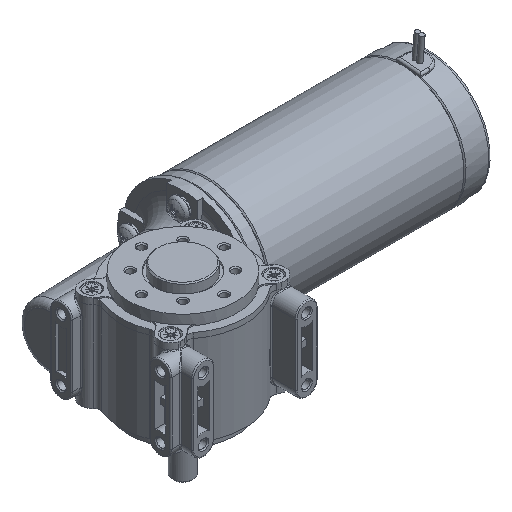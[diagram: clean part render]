
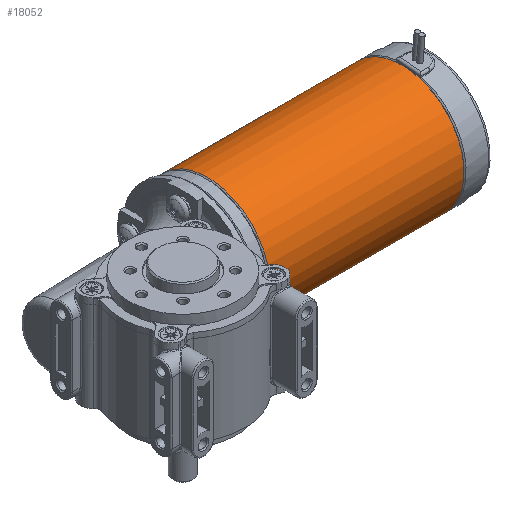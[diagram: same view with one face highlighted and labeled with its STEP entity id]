
A CAD part, isometric view. The second image highlights one B-rep face of the part: STEP entity #18052.
In plain terms, the highlighted cylindrical face has radius 30 mm (diameter 60 mm), a full revolution.
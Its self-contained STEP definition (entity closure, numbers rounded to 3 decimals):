
#1165=FACE_BOUND('',#4676,.T.);
#1481=CYLINDRICAL_SURFACE('',#19984,30.);
#2310=CIRCLE('',#19983,30.);
#2311=CIRCLE('',#19985,30.);
#3334=FACE_OUTER_BOUND('',#4675,.T.);
#4675=EDGE_LOOP('',(#14766));
#4676=EDGE_LOOP('',(#14767));
#8102=VERTEX_POINT('',#32968);
#8103=VERTEX_POINT('',#32971);
#10388=EDGE_CURVE('',#8102,#8102,#2310,.T.);
#10389=EDGE_CURVE('',#8103,#8103,#2311,.T.);
#14766=ORIENTED_EDGE('',*,*,#10389,.F.);
#14767=ORIENTED_EDGE('',*,*,#10388,.F.);
#18052=ADVANCED_FACE('',(#3334,#1165),#1481,.T.);
#19983=AXIS2_PLACEMENT_3D('',#32969,#24611,#24612);
#19984=AXIS2_PLACEMENT_3D('',#32970,#24613,#24614);
#19985=AXIS2_PLACEMENT_3D('',#32972,#24615,#24616);
#24611=DIRECTION('center_axis',(1.,0.,0.));
#24612=DIRECTION('ref_axis',(0.,-0.707,-0.707));
#24613=DIRECTION('center_axis',(-1.,0.,0.));
#24614=DIRECTION('ref_axis',(0.,-0.707,-0.707));
#24615=DIRECTION('center_axis',(-1.,0.,0.));
#24616=DIRECTION('ref_axis',(0.,-0.707,-0.707));
#32968=CARTESIAN_POINT('',(50.187,75.435,73.89));
#32969=CARTESIAN_POINT('Origin',(50.187,54.222,52.677));
#32970=CARTESIAN_POINT('Origin',(50.687,54.222,52.677));
#32971=CARTESIAN_POINT('',(-43.813,75.435,73.89));
#32972=CARTESIAN_POINT('Origin',(-43.813,54.222,52.677));
